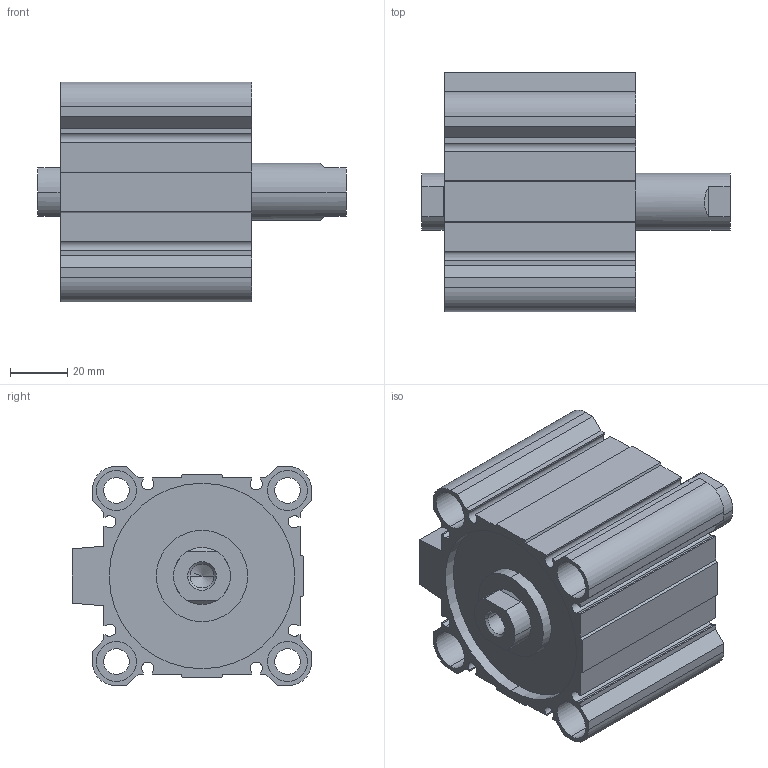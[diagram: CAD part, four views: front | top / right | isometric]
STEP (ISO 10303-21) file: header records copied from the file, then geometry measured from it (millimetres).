
FILE_DESCRIPTION (( 'STEP AP203' ), '1' );
FILE_NAME ('CCMB63-25F-P.STEP', '2020-08-05T11:46:42', ( '' ), ( '' ), 'SwSTEP 2.0', 'SolidWorks 2019', '' );
FILE_SCHEMA (( 'CONFIG_CONTROL_DESIGN' ));
Length unit declared in the file: millimetre
Products named in the file (1): CCMB63-25F-P
Bounding box: 108 x 84 x 77 mm (x, y, z)
Volume: 243436.2 mm3; surface area: 80874.5 mm2
Topology: 2 solids, 2 shells, 176 faces, 450 edges, 294 vertices
Faces by surface type: plane 90, cylinder 74, cone 12
Entity records: 5425 total; most frequent: DIRECTION 956, CARTESIAN_POINT 929, ORIENTED_EDGE 892, EDGE_CURVE 446, AXIS2_PLACEMENT_3D 337, VERTEX_POINT 294, LINE 282, VECTOR 282
